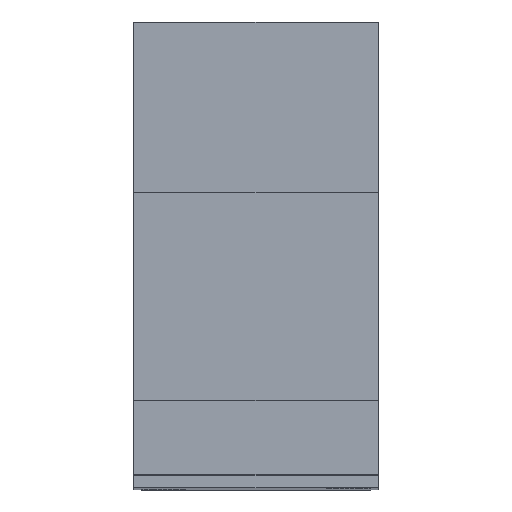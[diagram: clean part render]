
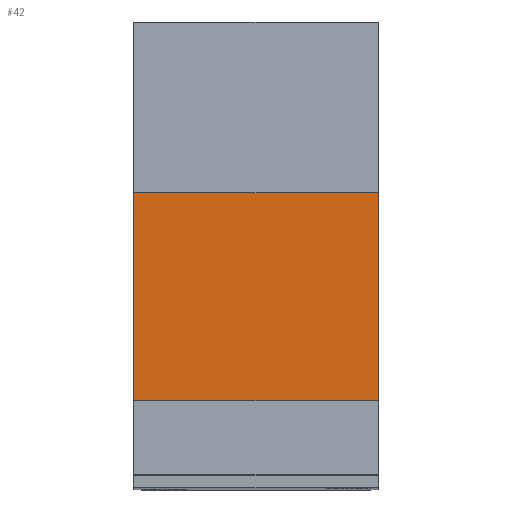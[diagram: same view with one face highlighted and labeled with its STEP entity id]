
A CAD part, top view. The second image highlights one B-rep face of the part: STEP entity #42.
In plain terms, the highlighted planar face has unit normal (0, 0, 1).
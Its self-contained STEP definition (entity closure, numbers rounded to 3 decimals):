
#42=ADVANCED_FACE('',(#96),#95,.T.);
#95=PLANE('',#443);
#96=FACE_OUTER_BOUND('',#444,.T.);
#440=CARTESIAN_POINT('',(-9.8,-6.35,51.2));
#441=DIRECTION('',(0.,0.,1.));
#442=DIRECTION('',(1.,0.,0.));
#443=AXIS2_PLACEMENT_3D('',#440,#441,#442);
#444=EDGE_LOOP('',(#622,#623,#624,#625));
#622=ORIENTED_EDGE('',*,*,#818,.F.);
#623=ORIENTED_EDGE('',*,*,#819,.F.);
#624=ORIENTED_EDGE('',*,*,#820,.T.);
#625=ORIENTED_EDGE('',*,*,#807,.T.);
#807=EDGE_CURVE('',#912,#904,#913,.T.);
#818=EDGE_CURVE('',#988,#904,#989,.T.);
#819=EDGE_CURVE('',#995,#988,#996,.T.);
#820=EDGE_CURVE('',#995,#912,#1002,.T.);
#904=VERTEX_POINT('',#1558);
#912=VERTEX_POINT('',#1563);
#913=LINE('',#1564,#1565);
#988=VERTEX_POINT('',#1606);
#989=LINE('',#1607,#1608);
#995=VERTEX_POINT('',#1610);
#996=LINE('',#1611,#1612);
#1002=LINE('',#1614,#1615);
#1558=CARTESIAN_POINT('',(-8.8,3.,51.2));
#1563=CARTESIAN_POINT('',(1.2,3.,51.2));
#1564=CARTESIAN_POINT('',(1.2,3.,51.2));
#1565=VECTOR('',#1566,10.);
#1566=DIRECTION('',(-1.,0.,0.));
#1606=CARTESIAN_POINT('',(-8.8,-5.5,51.2));
#1607=CARTESIAN_POINT('',(-8.8,-5.5,51.2));
#1608=VECTOR('',#1609,8.5);
#1609=DIRECTION('',(0.,1.,0.));
#1610=CARTESIAN_POINT('',(1.2,-5.5,51.2));
#1611=CARTESIAN_POINT('',(1.2,-5.5,51.2));
#1612=VECTOR('',#1613,10.);
#1613=DIRECTION('',(-1.,0.,0.));
#1614=CARTESIAN_POINT('',(1.2,-5.5,51.2));
#1615=VECTOR('',#1616,8.5);
#1616=DIRECTION('',(0.,1.,0.));
